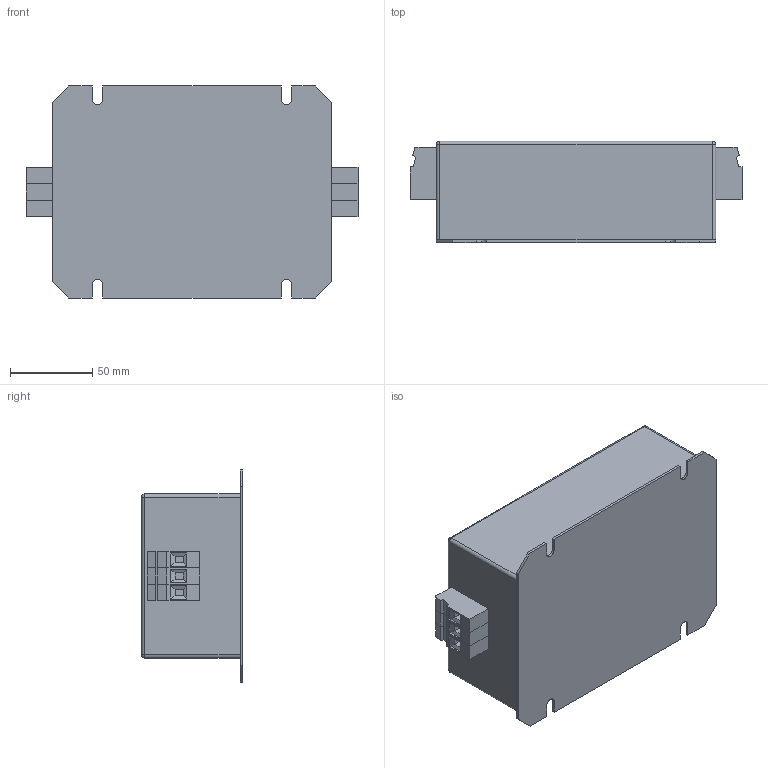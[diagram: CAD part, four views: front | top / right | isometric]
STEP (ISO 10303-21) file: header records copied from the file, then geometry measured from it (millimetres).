
FILE_DESCRIPTION (( 'STEP AP203' ), '1' );
FILE_NAME ('NF-25,36-1ph-FST.STEP', '2015-09-02T16:27:06', ( 'User' ), ( 'EPA' ), 'SwSTEP 2.0', 'SolidWorks 2008', '' );
FILE_SCHEMA (( 'CONFIG_CONTROL_DESIGN' ));
Length unit declared in the file: millimetre
Products named in the file (4): FNM-1S; NF-25,36-1ph-FST; VDFK-6E; VDFK-6
Assembly tree (7 placements, depth 2):
  NF-25,36-1ph-FST
    FNM-1S
    VDFK-6  x4
    VDFK-6E  x2
Bounding box: 202 x 61.5 x 129 mm (x, y, z)
Volume: 1053881 mm3; surface area: 137263.7 mm2
Topology: 8 solids, 8 shells, 360 faces, 886 edges, 560 vertices
Faces by surface type: plane 292, cylinder 64, sphere 4
Entity records: 4960 total; most frequent: DIRECTION 784, CARTESIAN_POINT 769, ORIENTED_EDGE 744, EDGE_CURVE 372, LINE 282, VECTOR 282, AXIS2_PLACEMENT_3D 251, VERTEX_POINT 236
